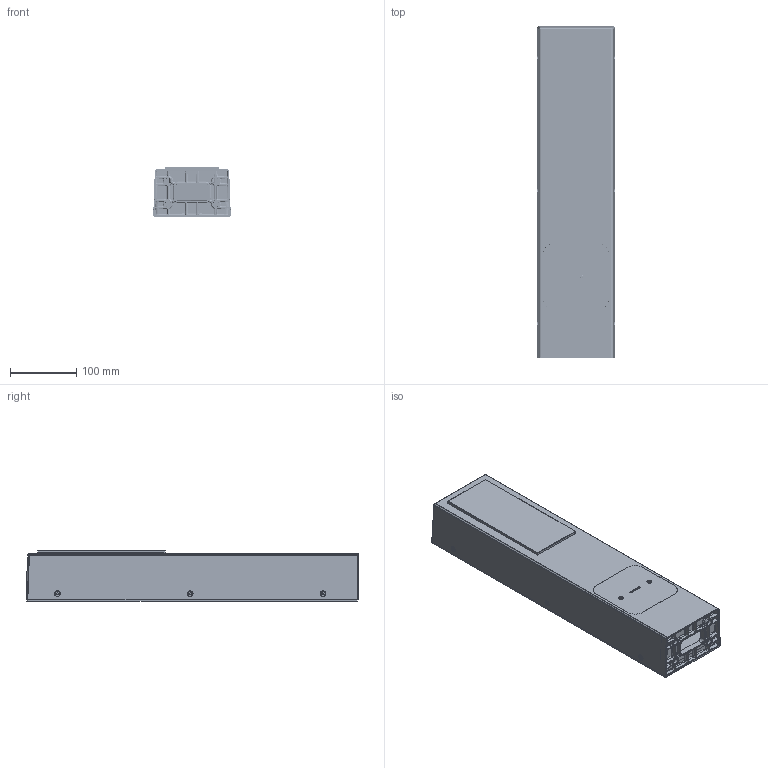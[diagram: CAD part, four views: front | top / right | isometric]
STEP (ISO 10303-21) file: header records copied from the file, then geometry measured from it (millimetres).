
FILE_DESCRIPTION((''),'2;1');
FILE_NAME('PALO-STILE-NEXT-LED_ASM','2025-07-29T14:46:01',('Piccioli'),(''),'CREO PARAMETRIC BY PTC INC, 2025010','CREO PARAMETRIC BY PTC INC, 2025010','');
FILE_SCHEMA(('CONFIG_CONTROL_DESIGN'));
Products named in the file (17): SPRNXC02; SSCPXC02; CMBNX0LG; VERS20PV; CMCNX0LG; CMGNX0LG; RILB7201; CMLNEXTA; ASSIEME-506L_ASM; ASSIEME-503_ASM; SSTPNX02; SSTPPX02; ETALB01I; SM4X12; VID47730; VIV3513V; PALO-STILE-NEXT-LED_ASM
Assembly tree (36 placements, depth 3):
  PALO-STILE-NEXT-LED_ASM
    SPRNXC02
    SSCPXC02
    ASSIEME-506L_ASM
      CMBNX0LG
      VERS20PV
      CMCNX0LG
      CMGNX0LG
      RILB7201
      CMLNEXTA  x4
    ASSIEME-503_ASM
      CMLNEXTA  x4
    SSTPNX02
    SSTPPX02
    ETALB01I
    SM4X12  x6
    VID47730  x6
    VIV3513V  x4
Bounding box: 116.89 x 500.24 x 76.8 mm (x, y, z)
Volume: 1159188.1 mm3; surface area: 1080306.2 mm2
Topology: 53 solids, 152 shells, 6535 faces, 18430 edges, 12264 vertices
Faces by surface type: plane 3565, cylinder 1370, cone 597, bspline 514, torus 232, sphere 135, extrusion 122
Entity records: 268239 total; most frequent: CARTESIAN_POINT 132479, ORIENTED_EDGE 28850, DIRECTION 25647, EDGE_CURVE 15256, VERTEX_POINT 10194, VECTOR 10185, LINE 10063, AXIS2_PLACEMENT_3D 7731
